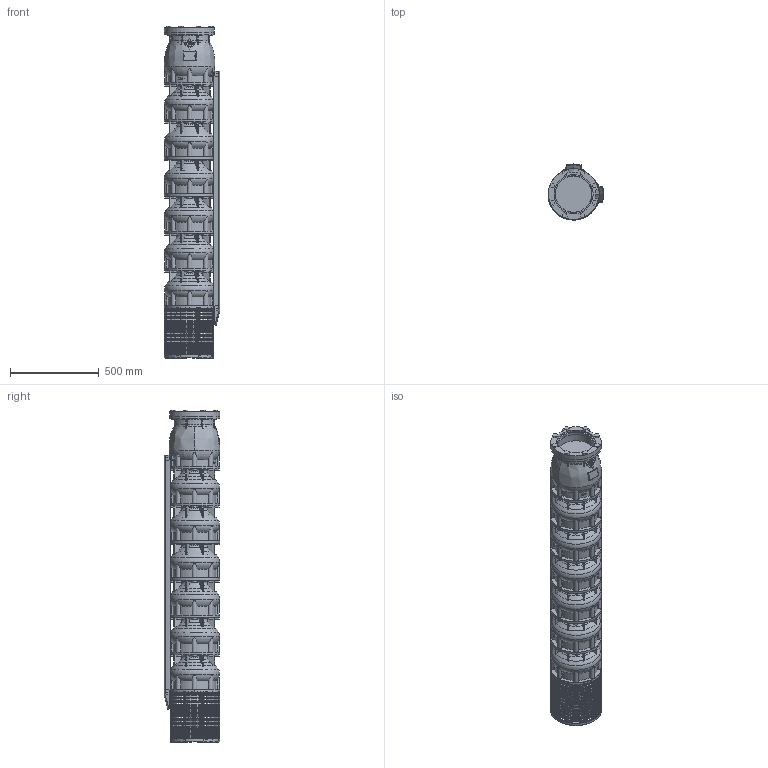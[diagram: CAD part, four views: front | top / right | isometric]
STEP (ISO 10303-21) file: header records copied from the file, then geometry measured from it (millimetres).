
FILE_DESCRIPTION(/* description */ ('-'),/* implementation_level */ '2;1');
FILE_NAME(/* name */ 'VSI344-6-2B_WF_M12-50_SLE',/* time_stamp */ '2026-01-21T11:45:21+01:00',/* author */ ('Simonelli M.'),/* organization */ ('Franklin Electric Srl'),/* preprocessor_version */ 'ST-DEVELOPER v18.102',/* originating_system */ 'Solid Edge',/* authorisation */ 'Unknown');
FILE_SCHEMA (('AUTOMOTIVE_DESIGN {1 0 10303 214 3 1 1}'));
Products named in the file (12): VSI344-6-2B_WF_M12-50_SLE; VSI344-454_testata; VSI344-454_supporto; VSI344-454_filtro_A; VSI344-454_filtro_B; VSI344-454_terminale_top_copricavo_medio; VSI344-454_terminale_bottom_copricavo_medio; MID 344-6; VSI344_diffusore; M5X8_UNI7687; VSI184-254_giunto_10×12; VSI344-454_flangia_testata
Assembly tree (30 placements, depth 2):
  VSI344-6-2B_WF_M12-50_SLE
    VSI344-454_testata
    VSI344-454_supporto
    VSI344-454_filtro_A
    VSI344-454_filtro_B
    VSI344-454_terminale_top_copricavo_medio  x2
    VSI344-454_terminale_bottom_copricavo_medio  x2
    MID 344-6  x2
    VSI344_diffusore  x6
    M5X8_UNI7687  x12
    VSI184-254_giunto_10×12
    VSI344-454_flangia_testata
Bounding box: 314.3 x 314.3 x 1875 mm (x, y, z)
Volume: 79179140.7 mm3; surface area: 4596055 mm2
Topology: 95 solids, 95 shells, 4829 faces, 13567 edges, 9013 vertices
Faces by surface type: plane 3788, cylinder 552, torus 349, cone 113, bspline 15, sphere 12
Full cylindrical faces by diameter (mm): 5 x12, 16 x8, 35 x1, 65 x1, 79 x1, 150 x1, 207 x1, 220.5 x1, 285 x6
Entity records: 124633 total; most frequent: CARTESIAN_POINT 28081, ORIENTED_EDGE 20264, DIRECTION 19378, EDGE_CURVE 10132, VERTEX_POINT 6757, AXIS2_PLACEMENT_3D 6547, LINE 6284, VECTOR 6284
